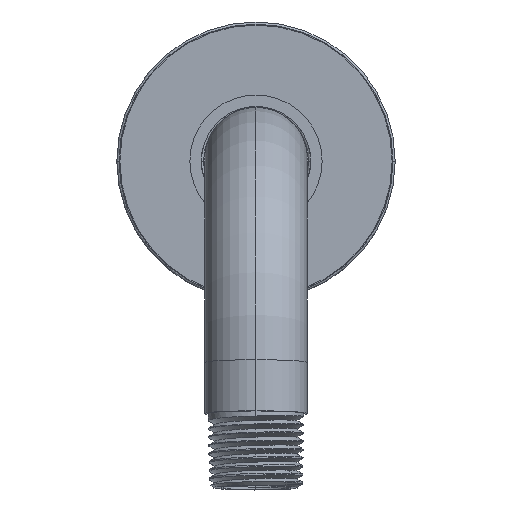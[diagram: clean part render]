
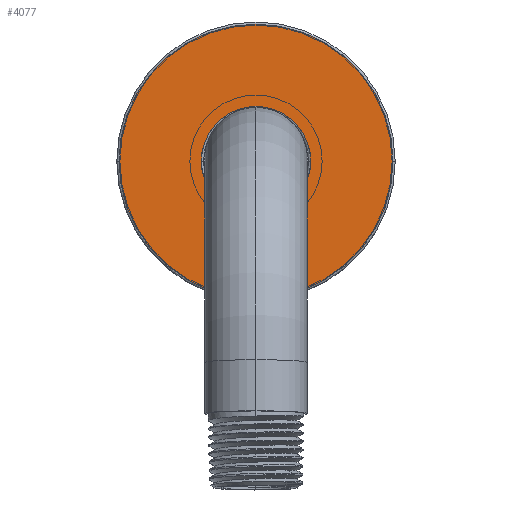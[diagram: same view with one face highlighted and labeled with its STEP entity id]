
A CAD part, top view. The second image highlights one B-rep face of the part: STEP entity #4077.
In plain terms, the highlighted planar face has unit normal (0, 0, 1) as drawn and (0, 0, -1) by its records, which use the part's own axes.
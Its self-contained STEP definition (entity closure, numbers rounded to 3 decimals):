
#172 = EDGE_CURVE ( 'NONE', #5012, #1469, #2278, .T. ) ;
#330 = FACE_BOUND ( 'NONE', #3597, .T. ) ;
#964 = EDGE_CURVE ( 'NONE', #5012, #1469, #3173, .T. ) ;
#1016 = DIRECTION ( 'NONE',  ( -1., 0., 0. ) ) ;
#1028 = AXIS2_PLACEMENT_3D ( 'NONE', #2872, #5255, #7646 ) ;
#1329 = CARTESIAN_POINT ( 'NONE',  ( 0., -11., -31. ) ) ;
#1469 = VERTEX_POINT ( 'NONE', #2834 ) ;
#1794 = VERTEX_POINT ( 'NONE', #4242 ) ;
#1871 = DIRECTION ( 'NONE',  ( 0., 0., -1. ) ) ;
#1906 = DIRECTION ( 'NONE',  ( -1., 0., 0. ) ) ;
#2278 = CIRCLE ( 'NONE', #2796, 11.8 ) ;
#2357 = DIRECTION ( 'NONE',  ( 0., 0., 1. ) ) ;
#2403 = AXIS2_PLACEMENT_3D ( 'NONE', #5818, #2357, #1016 ) ;
#2788 = CIRCLE ( 'NONE', #4037, 29.5 ) ;
#2796 = AXIS2_PLACEMENT_3D ( 'NONE', #1329, #1871, #1906 ) ;
#2834 = CARTESIAN_POINT ( 'NONE',  ( 11.8, -11., -31. ) ) ;
#2872 = CARTESIAN_POINT ( 'NONE',  ( 0., -11., -31. ) ) ;
#2902 = EDGE_CURVE ( 'NONE', #6098, #1794, #2788, .T. ) ;
#3173 = CIRCLE ( 'NONE', #2403, 11.8 ) ;
#3379 = DIRECTION ( 'NONE',  ( 1., 0., 0. ) ) ;
#3582 = DIRECTION ( 'NONE',  ( 0., 0., 1. ) ) ;
#3597 = EDGE_LOOP ( 'NONE', ( #7542, #6436 ) ) ;
#3609 = CARTESIAN_POINT ( 'NONE',  ( 29.5, -11., -31. ) ) ;
#4037 = AXIS2_PLACEMENT_3D ( 'NONE', #6949, #6282, #3379 ) ;
#4077 = ADVANCED_FACE ( 'NONE', ( #330, #5134 ), #7528, .F. ) ;
#4242 = CARTESIAN_POINT ( 'NONE',  ( -29.5, -11., -31. ) ) ;
#4268 = EDGE_CURVE ( 'NONE', #1794, #6098, #6809, .T. ) ;
#4506 = ORIENTED_EDGE ( 'NONE', *, *, #4268, .F. ) ;
#4669 = CARTESIAN_POINT ( 'NONE',  ( -11.8, -11., -31. ) ) ;
#4743 = ORIENTED_EDGE ( 'NONE', *, *, #2902, .F. ) ;
#4919 = AXIS2_PLACEMENT_3D ( 'NONE', #6944, #3582, #7108 ) ;
#5012 = VERTEX_POINT ( 'NONE', #4669 ) ;
#5134 = FACE_OUTER_BOUND ( 'NONE', #7177, .T. ) ;
#5255 = DIRECTION ( 'NONE',  ( 0., 0., 1. ) ) ;
#5818 = CARTESIAN_POINT ( 'NONE',  ( 0., -11., -31. ) ) ;
#6098 = VERTEX_POINT ( 'NONE', #3609 ) ;
#6282 = DIRECTION ( 'NONE',  ( 0., 0., 1. ) ) ;
#6436 = ORIENTED_EDGE ( 'NONE', *, *, #964, .T. ) ;
#6809 = CIRCLE ( 'NONE', #1028, 29.5 ) ;
#6944 = CARTESIAN_POINT ( 'NONE',  ( 0., -11., -31. ) ) ;
#6949 = CARTESIAN_POINT ( 'NONE',  ( 0., -11., -31. ) ) ;
#7108 = DIRECTION ( 'NONE',  ( 1., 0., 0. ) ) ;
#7177 = EDGE_LOOP ( 'NONE', ( #4743, #4506 ) ) ;
#7528 = PLANE ( 'NONE',  #4919 ) ;
#7542 = ORIENTED_EDGE ( 'NONE', *, *, #172, .F. ) ;
#7646 = DIRECTION ( 'NONE',  ( -1., 0., 0. ) ) ;
